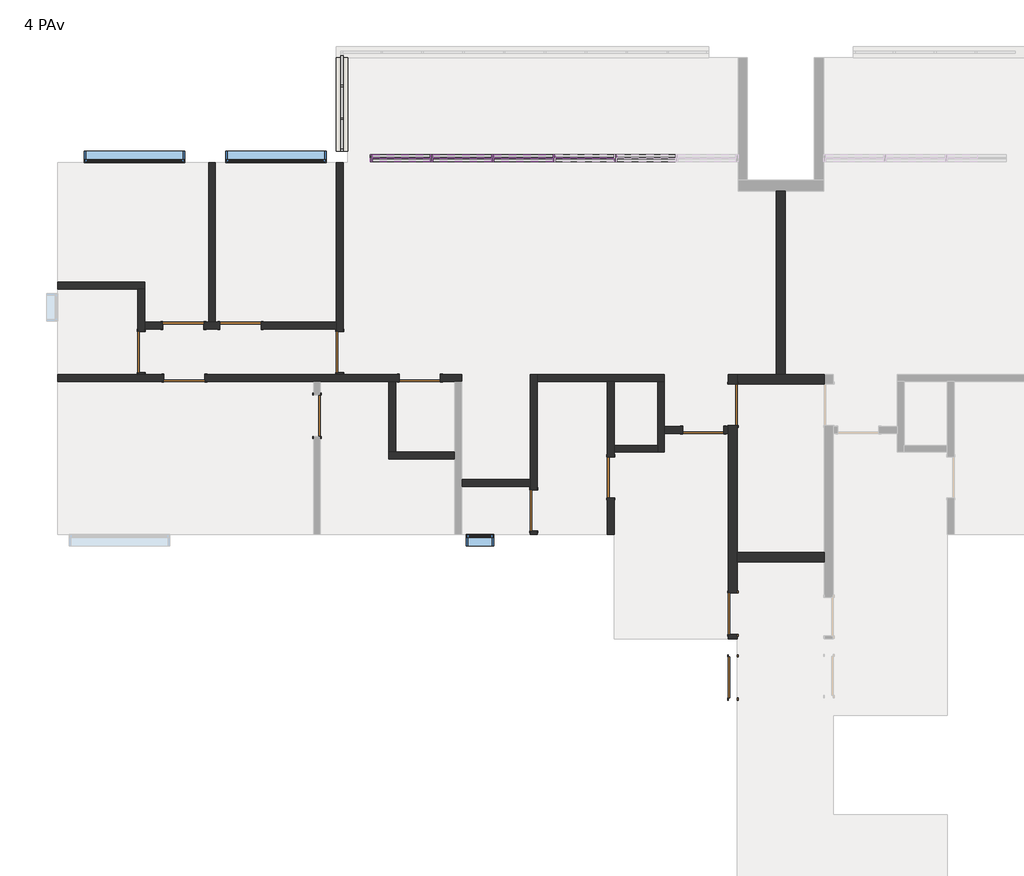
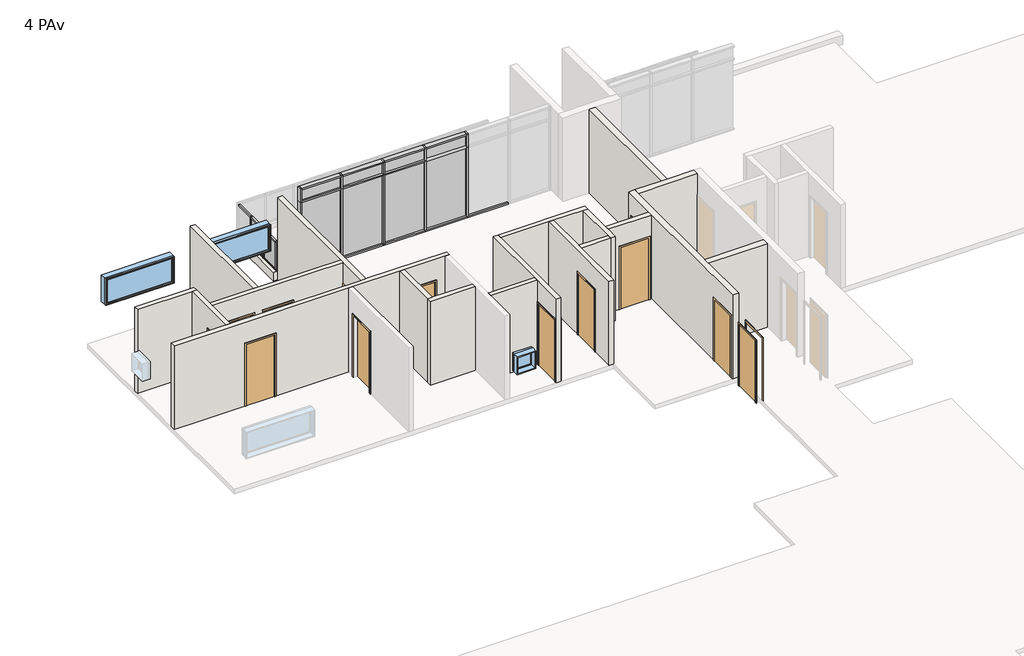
# One storey, part 4 of 6: 30 members, 20 walls, 13 doors, 10 plates, 3 windows.
"""IFC4 building model written with IfcOpenShell, lengths in millimetres."""

from ifc_helpers import new_model, si_unit, frame, origin, place, context, project, spatial, polyline, outline, extrude, faceted_brep, transform, mapped, element, save
from components import door_90_x_210_ee935524, door_90_x_210_565370b3, door_90_x_210_2c83007d, door_90_x_210_fbafd55c, montante_retangular_50_mm_quadrado_84e40a56, montante_retangular_50_mm_quadrado_3d152aff, montante_retangular_50_mm_quadrado_a01005a4, montante_retangular_50_mm_quadrado_ddd80bd7, montante_retangular_50_x_150_mm_6217edde, montante_retangular_50_x_150_mm_a22249d7, montante_retangular_50_x_150_mm_6225e4e3, montante_retangular_50_x_150_mm_0a8c3443, montante_retangular_50_x_150_mm_567eccab, montante_retangular_50_x_150_mm_1ca2bba2, montante_retangular_50_x_150_mm_6abf4531, montante_retangular_50_x_150_mm_662c37b1, painel_do_sistema_0196877a, painel_do_sistema_2aa81470, painel_do_sistema_1ecb5f42, painel_do_sistema_49db1829, painel_do_sistema_5ea5287b, painel_do_sistema_7730abee, window_0610_x_0610_mm_b5667cc9, window_220_x_90_84e01c73

model = new_model("IFC4")

# Units and contexts
model_context = context("Model", 3, world=origin())
ifc_project = project(units=[si_unit("LENGTHUNIT", "METRE", prefix="MILLI")], contexts=[model_context])

# Site, building, storey
site = spatial("IfcSite", under=ifc_project)
building = spatial("IfcBuilding", under=site)
storey = spatial("IfcBuildingStorey", under=building, Name="4 PAv", Elevation=12000.0)

# Doors
placement = place(None, origin())
door_90_x_210_shape = door_90_x_210_ee935524(model_context)
element("IfcDoor", 1, ObjectType="M_Descarga simples : 90 x 210", at=placement, inside=storey, context=model_context, shape_type="MappedRepresentation", body=[
    mapped(door_90_x_210_shape, transform((-14116.2265742, 10408.6614625, 12000.0), x_axis=(1.0, 0.0, 0.0), y_axis=(0.0, 1.0, 0.0), z_axis=(0.0, 0.0, 1.0))),
])
element("IfcDoor", 2, ObjectType="M_Descarga simples : 90 x 210", at=placement, inside=storey, context=model_context, shape_type="MappedRepresentation", body=[
    mapped(door_90_x_210_shape, transform((-14096.2265742, 9258.6614625, 12000.0), x_axis=(-1.0, 0.0, 0.0), y_axis=(0.0, -1.0, 0.0), z_axis=(0.0, 0.0, 1.0))),
])
element("IfcDoor", 3, ObjectType="M_Descarga simples : 90 x 210", at=placement, inside=storey, context=model_context, shape_type="MappedRepresentation", body=[
    mapped(door_90_x_210_shape, transform((-8936.2265742, 9258.6614625, 12000.0), x_axis=(-1.0, 0.0, 0.0), y_axis=(0.0, -1.0, 0.0), z_axis=(0.0, 0.0, 1.0))),
])
door_90_x_210_2_shape = door_90_x_210_565370b3(model_context)
element("IfcDoor", 4, ObjectType="M_Descarga simples : 90 x 210", at=placement, inside=storey, context=model_context, shape_type="MappedRepresentation", body=[
    mapped(door_90_x_210_2_shape, transform((-2726.2265742, 8118.6614625, 12000.0), x_axis=(1.0, 0.0, 0.0), y_axis=(0.0, 1.0, 0.0), z_axis=(0.0, 0.0, 1.0))),
])
element("IfcDoor", 5, ObjectType="M_Descarga simples : 90 x 210", at=placement, inside=storey, context=model_context, shape_type="MappedRepresentation", body=[
    mapped(door_90_x_210_2_shape, transform((-4751.2265742, 7083.6614625, 12000.0), x_axis=(0.0, -1.0, 0.0), y_axis=(1.0, 0.0, 0.0), z_axis=(0.0, 0.0, 1.0))),
])
element("IfcDoor", 6, ObjectType="M_Descarga simples : 90 x 210", at=placement, inside=storey, context=model_context, shape_type="MappedRepresentation", body=[
    mapped(door_90_x_210_2_shape, transform((-6441.2265742, 6358.6614625, 12000.0), x_axis=(0.0, -1.0, 0.0), y_axis=(1.0, 0.0, 0.0), z_axis=(0.0, 0.0, 1.0))),
])
element("IfcDoor", 7, ObjectType="M_Descarga simples : 90 x 210", at=placement, inside=storey, context=model_context, shape_type="MappedRepresentation", body=[
    mapped(door_90_x_210_2_shape, transform((-11191.2265742, 8433.6614625, 12000.0), x_axis=(0.0, 1.0, 0.0), y_axis=(-1.0, 0.0, 0.0), z_axis=(0.0, 0.0, 1.0))),
])
element("IfcDoor", 8, ObjectType="M_Descarga simples : 90 x 210", at=placement, inside=storey, context=model_context, shape_type="MappedRepresentation", body=[
    mapped(door_90_x_210_2_shape, transform((-10691.2265742, 9833.6614625, 12000.0), x_axis=(0.0, -1.0, 0.0), y_axis=(1.0, 0.0, 0.0), z_axis=(0.0, 0.0, 1.0))),
])
element("IfcDoor", 9, ObjectType="M_Descarga simples : 90 x 210", at=placement, inside=storey, context=model_context, shape_type="MappedRepresentation", body=[
    mapped(door_90_x_210_2_shape, transform((-15041.2265742, 9833.6614625, 12000.0), x_axis=(0.0, -1.0, 0.0), y_axis=(1.0, 0.0, 0.0), z_axis=(0.0, 0.0, 1.0))),
])
element("IfcDoor", 10, ObjectType="M_Descarga simples : 90 x 210", at=placement, inside=storey, context=model_context, shape_type="MappedRepresentation", body=[
    mapped(door_90_x_210_2_shape, transform((-12866.2265742, 10408.6614625, 12000.0), x_axis=(-1.0, 0.0, 0.0), y_axis=(0.0, -1.0, 0.0), z_axis=(0.0, 0.0, 1.0))),
])
door_90_x_210_3_shape = door_90_x_210_2c83007d(model_context)
element("IfcDoor", 11, ObjectType="M_Descarga simples : 90 x 210", at=placement, inside=storey, context=model_context, shape_type="MappedRepresentation", body=[
    mapped(door_90_x_210_3_shape, transform((-2076.2265742, 2693.6614625, 12000.0), x_axis=(0.0, 1.0, 0.0), y_axis=(-1.0, 0.0, 0.0), z_axis=(0.0, 0.0, 1.0))),
])
door_90_x_210_4_shape = door_90_x_210_fbafd55c(model_context)
element("IfcDoor", 12, ObjectType="M_Descarga simples : 90 x 210", at=placement, inside=storey, context=model_context, shape_type="MappedRepresentation", body=[
    mapped(door_90_x_210_4_shape, transform((-2076.2265742, 4093.6614625, 12000.0), x_axis=(0.0, -1.0, 0.0), y_axis=(1.0, 0.0, 0.0), z_axis=(0.0, 0.0, 1.0))),
])
element("IfcDoor", 13, ObjectType="M_Descarga simples : 90 x 210", at=placement, inside=storey, context=model_context, shape_type="MappedRepresentation", body=[
    mapped(door_90_x_210_4_shape, transform((-2076.2265742, 8673.2521762, 12000.0), x_axis=(0.0, 1.0, 0.0), y_axis=(-1.0, 0.0, 0.0), z_axis=(0.0, 0.0, 1.0))),
])

# Members
montante_retangular_50_mm_quadrado_shape = montante_retangular_50_mm_quadrado_84e40a56(model_context)
element("IfcMember", 14, ObjectType="Montante retangular : 50 mm Quadrado", at=placement, inside=storey, context=model_context, shape_type="MappedRepresentation", body=[
    mapped(montante_retangular_50_mm_quadrado_shape, transform((-10641.2265742, 15663.6614625, 12150.0), x_axis=(0.0, -1.0, 0.0), y_axis=(-1.0, 0.0, 0.0), z_axis=(0.0, 0.0, -1.0))),
])
element("IfcMember", 15, ObjectType="Montante retangular : 50 mm Quadrado", at=placement, inside=storey, context=model_context, shape_type="MappedRepresentation", body=[
    mapped(montante_retangular_50_mm_quadrado_shape, transform((-10641.2265742, 14948.6614625, 12150.0), x_axis=(0.0, -1.0, 0.0), y_axis=(-1.0, 0.0, 0.0), z_axis=(0.0, 0.0, -1.0))),
])
montante_retangular_50_mm_quadrado_2_shape = montante_retangular_50_mm_quadrado_3d152aff(model_context)
element("IfcMember", 16, ObjectType="Montante retangular : 50 mm Quadrado", at=placement, inside=storey, context=model_context, shape_type="MappedRepresentation", body=[
    mapped(montante_retangular_50_mm_quadrado_2_shape, transform((-10641.2265742, 14233.6614625, 12150.0), x_axis=(0.0, -1.0, 0.0), y_axis=(-1.0, 0.0, 0.0), z_axis=(0.0, 0.0, -1.0))),
])
montante_retangular_50_mm_quadrado_3_shape = montante_retangular_50_mm_quadrado_a01005a4(model_context)
element("IfcMember", 17, ObjectType="Montante retangular : 50 mm Quadrado", at=placement, inside=storey, context=model_context, shape_type="MappedRepresentation", body=[
    mapped(montante_retangular_50_mm_quadrado_3_shape, transform((-10641.2265742, 14283.6614625, 13150.0), x_axis=(0.0, 0.0, 1.0), y_axis=(-1.0, 0.0, 0.0), z_axis=(0.0, -1.0, 0.0))),
])
element("IfcMember", 18, ObjectType="Montante retangular : 50 mm Quadrado", at=placement, inside=storey, context=model_context, shape_type="MappedRepresentation", body=[
    mapped(montante_retangular_50_mm_quadrado_3_shape, transform((-10641.2265742, 15688.6614625, 13150.0), x_axis=(0.0, 0.0, 1.0), y_axis=(-1.0, 0.0, 0.0), z_axis=(0.0, -1.0, 0.0))),
])
montante_retangular_50_mm_quadrado_4_shape = montante_retangular_50_mm_quadrado_ddd80bd7(model_context)
element("IfcMember", 19, ObjectType="Montante retangular : 50 mm Quadrado", at=placement, inside=storey, context=model_context, shape_type="MappedRepresentation", body=[
    mapped(montante_retangular_50_mm_quadrado_4_shape, transform((-10641.2265742, 14973.6614625, 13150.0), x_axis=(0.0, 0.0, 1.0), y_axis=(-1.0, 0.0, 0.0), z_axis=(0.0, -1.0, 0.0))),
])
element("IfcMember", 20, ObjectType="Montante retangular : 50 mm Quadrado", at=placement, inside=storey, context=model_context, shape_type="MappedRepresentation", body=[
    mapped(montante_retangular_50_mm_quadrado_3_shape, transform((-10641.2265742, 14923.6614625, 12150.0), x_axis=(0.0, 0.0, -1.0), y_axis=(-1.0, 0.0, 0.0), z_axis=(0.0, 1.0, 0.0))),
])
element("IfcMember", 21, ObjectType="Montante retangular : 50 mm Quadrado", at=placement, inside=storey, context=model_context, shape_type="MappedRepresentation", body=[
    mapped(montante_retangular_50_mm_quadrado_4_shape, transform((-10641.2265742, 15638.6614625, 12150.0), x_axis=(0.0, 0.0, -1.0), y_axis=(-1.0, 0.0, 0.0), z_axis=(0.0, 1.0, 0.0))),
])
montante_retangular_50_x_150_mm_shape = montante_retangular_50_x_150_mm_6217edde(model_context)
element("IfcMember", 22, ObjectType="Montante retangular : 50 x 150 mm", at=placement, inside=storey, context=model_context, shape_type="MappedRepresentation", body=[
    mapped(montante_retangular_50_x_150_mm_shape, transform((-8707.0599075, 14083.6614625, 14850.0), x_axis=(0.0, 0.0, 1.0), y_axis=(0.0, -1.0, 0.0), z_axis=(1.0, 0.0, 0.0))),
])
montante_retangular_50_x_150_mm_2_shape = montante_retangular_50_x_150_mm_a22249d7(model_context)
element("IfcMember", 23, ObjectType="Montante retangular : 50 x 150 mm", at=placement, inside=storey, context=model_context, shape_type="MappedRepresentation", body=[
    mapped(montante_retangular_50_x_150_mm_2_shape, transform((-7362.8932408, 14083.6614625, 14850.0), x_axis=(0.0, 0.0, 1.0), y_axis=(0.0, -1.0, 0.0), z_axis=(1.0, 0.0, 0.0))),
])
element("IfcMember", 24, ObjectType="Montante retangular : 50 x 150 mm", at=placement, inside=storey, context=model_context, shape_type="MappedRepresentation", body=[
    mapped(montante_retangular_50_x_150_mm_2_shape, transform((-6018.7265742, 14083.6614625, 14850.0), x_axis=(0.0, 0.0, 1.0), y_axis=(0.0, -1.0, 0.0), z_axis=(1.0, 0.0, 0.0))),
])
element("IfcMember", 25, ObjectType="Montante retangular : 50 x 150 mm", at=placement, inside=storey, context=model_context, shape_type="MappedRepresentation", body=[
    mapped(montante_retangular_50_x_150_mm_2_shape, transform((-4674.5599075, 14083.6614625, 14850.0), x_axis=(0.0, 0.0, 1.0), y_axis=(0.0, -1.0, 0.0), z_axis=(1.0, 0.0, 0.0))),
])
element("IfcMember", 26, ObjectType="Montante retangular : 50 x 150 mm", at=placement, inside=storey, context=model_context, shape_type="MappedRepresentation", body=[
    mapped(montante_retangular_50_x_150_mm_shape, transform((-9976.2265742, 14083.6614625, 12000.0), x_axis=(0.0, 0.0, -1.0), y_axis=(0.0, -1.0, 0.0), z_axis=(-1.0, 0.0, 0.0))),
])
element("IfcMember", 27, ObjectType="Montante retangular : 50 x 150 mm", at=placement, inside=storey, context=model_context, shape_type="MappedRepresentation", body=[
    mapped(montante_retangular_50_x_150_mm_2_shape, transform((-8657.0599075, 14083.6614625, 12000.0), x_axis=(0.0, 0.0, -1.0), y_axis=(0.0, -1.0, 0.0), z_axis=(-1.0, 0.0, 0.0))),
])
element("IfcMember", 28, ObjectType="Montante retangular : 50 x 150 mm", at=placement, inside=storey, context=model_context, shape_type="MappedRepresentation", body=[
    mapped(montante_retangular_50_x_150_mm_2_shape, transform((-7312.8932408, 14083.6614625, 12000.0), x_axis=(0.0, 0.0, -1.0), y_axis=(0.0, -1.0, 0.0), z_axis=(-1.0, 0.0, 0.0))),
])
element("IfcMember", 29, ObjectType="Montante retangular : 50 x 150 mm", at=placement, inside=storey, context=model_context, shape_type="MappedRepresentation", body=[
    mapped(montante_retangular_50_x_150_mm_2_shape, transform((-5968.7265742, 14083.6614625, 12000.0), x_axis=(0.0, 0.0, -1.0), y_axis=(0.0, -1.0, 0.0), z_axis=(-1.0, 0.0, 0.0))),
])
element("IfcMember", 30, ObjectType="Montante retangular : 50 x 150 mm", at=placement, inside=storey, context=model_context, shape_type="MappedRepresentation", body=[
    mapped(montante_retangular_50_x_150_mm_2_shape, transform((-4624.5599075, 14083.6614625, 12000.0), x_axis=(0.0, 0.0, -1.0), y_axis=(0.0, -1.0, 0.0), z_axis=(-1.0, 0.0, 0.0))),
])
montante_retangular_50_x_150_mm_3_shape = montante_retangular_50_x_150_mm_6225e4e3(model_context)
element("IfcMember", 31, ObjectType="Montante retangular : 50 x 150 mm", at=placement, inside=storey, context=model_context, shape_type="MappedRepresentation", body=[
    mapped(montante_retangular_50_x_150_mm_3_shape, transform((-8682.0599075, 14083.6614625, 12000.0), x_axis=(1.0, 0.0, 0.0), y_axis=(0.0, -1.0, 0.0), z_axis=(0.0, 0.0, -1.0))),
])
element("IfcMember", 32, ObjectType="Montante retangular : 50 x 150 mm", at=placement, inside=storey, context=model_context, shape_type="MappedRepresentation", body=[
    mapped(montante_retangular_50_x_150_mm_3_shape, transform((-7337.8932408, 14083.6614625, 12000.0), x_axis=(1.0, 0.0, 0.0), y_axis=(0.0, -1.0, 0.0), z_axis=(0.0, 0.0, -1.0))),
])
element("IfcMember", 33, ObjectType="Montante retangular : 50 x 150 mm", at=placement, inside=storey, context=model_context, shape_type="MappedRepresentation", body=[
    mapped(montante_retangular_50_x_150_mm_3_shape, transform((-5993.7265742, 14083.6614625, 12000.0), x_axis=(1.0, 0.0, 0.0), y_axis=(0.0, -1.0, 0.0), z_axis=(0.0, 0.0, -1.0))),
])
element("IfcMember", 34, ObjectType="Montante retangular : 50 x 150 mm", at=placement, inside=storey, context=model_context, shape_type="MappedRepresentation", body=[
    mapped(montante_retangular_50_x_150_mm_3_shape, transform((-4649.5599075, 14083.6614625, 12000.0), x_axis=(1.0, 0.0, 0.0), y_axis=(0.0, -1.0, 0.0), z_axis=(0.0, 0.0, -1.0))),
])
montante_retangular_50_x_150_mm_4_shape = montante_retangular_50_x_150_mm_0a8c3443(model_context)
element("IfcMember", 35, ObjectType="Montante retangular : 50 x 150 mm", at=placement, inside=storey, context=model_context, shape_type="MappedRepresentation", body=[
    mapped(montante_retangular_50_x_150_mm_4_shape, transform((-10026.2265742, 14083.6614625, 14850.0), x_axis=(-1.0, 0.0, 0.0), y_axis=(0.0, -1.0, 0.0), z_axis=(0.0, 0.0, 1.0))),
])
montante_retangular_50_x_150_mm_5_shape = montante_retangular_50_x_150_mm_567eccab(model_context)
element("IfcMember", 36, ObjectType="Montante retangular : 50 x 150 mm", at=placement, inside=storey, context=model_context, shape_type="MappedRepresentation", body=[
    mapped(montante_retangular_50_x_150_mm_5_shape, transform((-8682.0599075, 14083.6614625, 14400.0), x_axis=(1.0, 0.0, 0.0), y_axis=(0.0, -1.0, 0.0), z_axis=(0.0, 0.0, -1.0))),
])
element("IfcMember", 37, ObjectType="Montante retangular : 50 x 150 mm", at=placement, inside=storey, context=model_context, shape_type="MappedRepresentation", body=[
    mapped(montante_retangular_50_x_150_mm_5_shape, transform((-7337.8932408, 14083.6614625, 14400.0), x_axis=(1.0, 0.0, 0.0), y_axis=(0.0, -1.0, 0.0), z_axis=(0.0, 0.0, -1.0))),
])
element("IfcMember", 38, ObjectType="Montante retangular : 50 x 150 mm", at=placement, inside=storey, context=model_context, shape_type="MappedRepresentation", body=[
    mapped(montante_retangular_50_x_150_mm_5_shape, transform((-5993.7265742, 14083.6614625, 14400.0), x_axis=(1.0, 0.0, 0.0), y_axis=(0.0, -1.0, 0.0), z_axis=(0.0, 0.0, -1.0))),
])
element("IfcMember", 39, ObjectType="Montante retangular : 50 x 150 mm", at=placement, inside=storey, context=model_context, shape_type="MappedRepresentation", body=[
    mapped(montante_retangular_50_x_150_mm_5_shape, transform((-4649.5599075, 14083.6614625, 14400.0), x_axis=(1.0, 0.0, 0.0), y_axis=(0.0, -1.0, 0.0), z_axis=(0.0, 0.0, -1.0))),
])
montante_retangular_50_x_150_mm_6_shape = montante_retangular_50_x_150_mm_1ca2bba2(model_context)
element("IfcMember", 40, ObjectType="Montante retangular : 50 x 150 mm", at=placement, inside=storey, context=model_context, shape_type="MappedRepresentation", body=[
    mapped(montante_retangular_50_x_150_mm_6_shape, transform((-8707.0599075, 14083.6614625, 14400.0), x_axis=(0.0, 0.0, 1.0), y_axis=(0.0, -1.0, 0.0), z_axis=(1.0, 0.0, 0.0))),
])
montante_retangular_50_x_150_mm_7_shape = montante_retangular_50_x_150_mm_6abf4531(model_context)
element("IfcMember", 41, ObjectType="Montante retangular : 50 x 150 mm", at=placement, inside=storey, context=model_context, shape_type="MappedRepresentation", body=[
    mapped(montante_retangular_50_x_150_mm_7_shape, transform((-7362.8932408, 14083.6614625, 14400.0), x_axis=(0.0, 0.0, 1.0), y_axis=(0.0, -1.0, 0.0), z_axis=(1.0, 0.0, 0.0))),
])
element("IfcMember", 42, ObjectType="Montante retangular : 50 x 150 mm", at=placement, inside=storey, context=model_context, shape_type="MappedRepresentation", body=[
    mapped(montante_retangular_50_x_150_mm_7_shape, transform((-6018.7265742, 14083.6614625, 14400.0), x_axis=(0.0, 0.0, 1.0), y_axis=(0.0, -1.0, 0.0), z_axis=(1.0, 0.0, 0.0))),
])
montante_retangular_50_x_150_mm_8_shape = montante_retangular_50_x_150_mm_662c37b1(model_context)
element("IfcMember", 43, ObjectType="Montante retangular : 50 x 150 mm", at=placement, inside=storey, context=model_context, shape_type="MappedRepresentation", body=[
    mapped(montante_retangular_50_x_150_mm_8_shape, transform((-10026.2265742, 14083.6614625, 14400.0), x_axis=(-1.0, 0.0, 0.0), y_axis=(0.0, -1.0, 0.0), z_axis=(0.0, 0.0, 1.0))),
])

# Plates
painel_do_sistema_shape = painel_do_sistema_0196877a(model_context)
element("IfcPlate", 44, ObjectType="Painel do sistema : Envidraçado", at=placement, inside=storey, context=model_context, shape_type="MappedRepresentation", body=[
    mapped(painel_do_sistema_shape, transform((-10641.2265742, 14603.6614625, 12200.0), x_axis=(0.0, -1.0, 0.0), y_axis=(1.0, 0.0, 0.0), z_axis=(0.0, 0.0, 1.0))),
])
painel_do_sistema_2_shape = painel_do_sistema_2aa81470(model_context)
element("IfcPlate", 45, ObjectType="Painel do sistema : Envidraçado", at=placement, inside=storey, context=model_context, shape_type="MappedRepresentation", body=[
    mapped(painel_do_sistema_2_shape, transform((-10641.2265742, 15306.1614625, 12200.0), x_axis=(0.0, -1.0, 0.0), y_axis=(1.0, 0.0, 0.0), z_axis=(0.0, 0.0, 1.0))),
])
painel_do_sistema_3_shape = painel_do_sistema_1ecb5f42(model_context)
element("IfcPlate", 46, ObjectType="Painel do sistema : Envidraçado", at=placement, inside=storey, context=model_context, shape_type="MappedRepresentation", body=[
    mapped(painel_do_sistema_3_shape, transform((-9341.6432408, 14083.6614625, 12050.0), x_axis=(1.0, 0.0, 0.0), y_axis=(0.0, 1.0, 0.0), z_axis=(0.0, 0.0, 1.0))),
])
painel_do_sistema_4_shape = painel_do_sistema_49db1829(model_context)
element("IfcPlate", 47, ObjectType="Painel do sistema : Envidraçado", at=placement, inside=storey, context=model_context, shape_type="MappedRepresentation", body=[
    mapped(painel_do_sistema_4_shape, transform((-8009.9765742, 14083.6614625, 12050.0), x_axis=(1.0, 0.0, 0.0), y_axis=(0.0, 1.0, 0.0), z_axis=(0.0, 0.0, 1.0))),
])
element("IfcPlate", 48, ObjectType="Painel do sistema : Envidraçado", at=placement, inside=storey, context=model_context, shape_type="MappedRepresentation", body=[
    mapped(painel_do_sistema_4_shape, transform((-6665.8099075, 14083.6614625, 12050.0), x_axis=(1.0, 0.0, 0.0), y_axis=(0.0, 1.0, 0.0), z_axis=(0.0, 0.0, 1.0))),
])
element("IfcPlate", 49, ObjectType="Painel do sistema : Envidraçado", at=placement, inside=storey, context=model_context, shape_type="MappedRepresentation", body=[
    mapped(painel_do_sistema_4_shape, transform((-5321.6432408, 14083.6614625, 12050.0), x_axis=(1.0, 0.0, 0.0), y_axis=(0.0, 1.0, 0.0), z_axis=(0.0, 0.0, 1.0))),
])
painel_do_sistema_5_shape = painel_do_sistema_5ea5287b(model_context)
element("IfcPlate", 50, ObjectType="Painel do sistema : Envidraçado", at=placement, inside=storey, context=model_context, shape_type="MappedRepresentation", body=[
    mapped(painel_do_sistema_5_shape, transform((-9341.6432408, 14083.6614625, 14425.0), x_axis=(1.0, 0.0, 0.0), y_axis=(0.0, 1.0, 0.0), z_axis=(0.0, 0.0, 1.0))),
])
painel_do_sistema_6_shape = painel_do_sistema_7730abee(model_context)
element("IfcPlate", 51, ObjectType="Painel do sistema : Envidraçado", at=placement, inside=storey, context=model_context, shape_type="MappedRepresentation", body=[
    mapped(painel_do_sistema_6_shape, transform((-8009.9765742, 14083.6614625, 14425.0), x_axis=(1.0, 0.0, 0.0), y_axis=(0.0, 1.0, 0.0), z_axis=(0.0, 0.0, 1.0))),
])
element("IfcPlate", 52, ObjectType="Painel do sistema : Envidraçado", at=placement, inside=storey, context=model_context, shape_type="MappedRepresentation", body=[
    mapped(painel_do_sistema_6_shape, transform((-6665.8099075, 14083.6614625, 14425.0), x_axis=(1.0, 0.0, 0.0), y_axis=(0.0, 1.0, 0.0), z_axis=(0.0, 0.0, 1.0))),
])
element("IfcPlate", 53, ObjectType="Painel do sistema : Envidraçado", at=placement, inside=storey, context=model_context, shape_type="MappedRepresentation", body=[
    mapped(painel_do_sistema_6_shape, transform((-5321.6432408, 14083.6614625, 14425.0), x_axis=(1.0, 0.0, 0.0), y_axis=(0.0, 1.0, 0.0), z_axis=(0.0, 0.0, 1.0))),
])

# Walls
element("IfcWall", 54, ObjectType="Exeterna 25", at=placement, inside=storey, context=model_context, shape_type="SweptSolid", body=[
    extrude(outline(polyline([(-10766.2265742, 14233.6614625), (-10766.2265742, 16278.6614625), (-10516.2265742, 16278.6614625), (-10516.2265742, 14233.6614625), (-10766.2265742, 14233.6614625)])), frame((0.0, 0.0, 11850.0), z_axis=(0.0, 0.0, 1.0), x_axis=(1.0, 0.0, 0.0)), (0.0, 0.0, 1.0), 300.0),
])
element("IfcWall", 55, ObjectType="Estrutura 20", at=placement, inside=storey, context=model_context, shape_type="SweptSolid", body=[
    extrude(outline(polyline([(-76.2265742, 5233.6614625), (-1976.2265742, 5233.6614625), (-1976.2265742, 5433.6614625), (-76.2265742, 5433.6614625), (-76.2265742, 5233.6614625)])), frame((0.0, 0.0, 12000.0), z_axis=(0.0, 0.0, 1.0), x_axis=(1.0, 0.0, 0.0)), (0.0, 0.0, 1.0), 2850.0),
])
element("IfcWall", 56, ObjectType="Interna 15", at=placement, inside=storey, context=model_context, shape_type="Brep", body=[
    faceted_brep([(-10766.2265742, 9383.6614625, 14100.0), (-10766.2265742, 9383.6614625, 12000.0), (-10766.2265742, 9333.6614625, 12000.0), (-10766.2265742, 9333.6614625, 14850.0), (-10766.2265742, 10333.6614625, 14850.0), (-10766.2265742, 10483.6614625, 14850.0), (-10766.2265742, 13983.6614625, 14850.0), (-10766.2265742, 13983.6614625, 12000.0), (-10766.2265742, 10483.6614625, 12000.0), (-10766.2265742, 10333.6614625, 12000.0), (-10766.2265742, 10283.6614625, 12000.0), (-10766.2265742, 10283.6614625, 14100.0), (-10616.2265742, 9333.6614625, 12000.0), (-10616.2265742, 9383.6614625, 12000.0), (-10616.2265742, 9383.6614625, 14100.0), (-10616.2265742, 10283.6614625, 14100.0), (-10616.2265742, 10283.6614625, 12000.0), (-10616.2265742, 13983.6614625, 12000.0), (-10616.2265742, 13983.6614625, 14850.0), (-10616.2265742, 9333.6614625, 14850.0)], [[[0, 1, 2, 3, 4, 5, 6, 7, 8, 9, 10, 11]], [[12, 13, 14, 15, 16, 17, 18, 19]], [[2, 1, 13, 12]], [[10, 9, 8, 7, 17, 16]], [[6, 5, 4, 3, 19, 18]], [[3, 2, 12, 19]], [[14, 13, 1, 0]], [[15, 14, 0, 11]], [[16, 15, 11, 10]], [[7, 6, 18, 17]]]),
])
element("IfcWall", 57, ObjectType="Interna 15", at=placement, inside=storey, context=model_context, shape_type="Brep", body=[
    faceted_brep([(-13316.2265742, 10483.6614625, 12000.0), (-13416.2265742, 10483.6614625, 12000.0), (-13566.2265742, 10483.6614625, 12000.0), (-13666.2265742, 10483.6614625, 12000.0), (-13666.2265742, 10483.6614625, 14100.0), (-14566.2265742, 10483.6614625, 14100.0), (-14566.2265742, 10483.6614625, 12000.0), (-14966.2265742, 10483.6614625, 12000.0), (-14966.2265742, 10483.6614625, 14850.0), (-13566.2265742, 10483.6614625, 14850.0), (-13416.2265742, 10483.6614625, 14850.0), (-10766.2265742, 10483.6614625, 14850.0), (-10766.2265742, 10483.6614625, 12000.0), (-12416.2265742, 10483.6614625, 12000.0), (-12416.2265742, 10483.6614625, 14100.0), (-13316.2265742, 10483.6614625, 14100.0), (-13666.2265742, 10333.6614625, 14100.0), (-13666.2265742, 10333.6614625, 12000.0), (-13316.2265742, 10333.6614625, 12000.0), (-13316.2265742, 10333.6614625, 14100.0), (-12416.2265742, 10333.6614625, 14100.0), (-12416.2265742, 10333.6614625, 12000.0), (-10766.2265742, 10333.6614625, 12000.0), (-10766.2265742, 10333.6614625, 14850.0), (-14966.2265742, 10333.6614625, 14850.0), (-14966.2265742, 10333.6614625, 12000.0), (-14566.2265742, 10333.6614625, 12000.0), (-14566.2265742, 10333.6614625, 14100.0)], [[[0, 1, 2, 3, 4, 5, 6, 7, 8, 9, 10, 11, 12, 13, 14, 15]], [[16, 17, 18, 19, 20, 21, 22, 23, 24, 25, 26, 27]], [[13, 12, 22, 21]], [[26, 25, 7, 6]], [[18, 17, 3, 2, 1, 0]], [[11, 10, 9, 8, 24, 23]], [[12, 11, 23, 22]], [[8, 7, 25, 24]], [[4, 3, 17, 16]], [[5, 4, 16, 27]], [[6, 5, 27, 26]], [[19, 18, 0, 15]], [[20, 19, 15, 14]], [[21, 20, 14, 13]]]),
])
element("IfcWall", 58, ObjectType="Interna 15", at=placement, inside=storey, context=model_context, shape_type="SweptSolid", body=[
    extrude(outline(polyline([(-13416.2265742, 13983.6614625), (-13416.2265742, 10483.6614625), (-13566.2265742, 10483.6614625), (-13566.2265742, 13983.6614625), (-13416.2265742, 13983.6614625)])), frame((0.0, 0.0, 12000.0), z_axis=(0.0, 0.0, 1.0), x_axis=(1.0, 0.0, 0.0)), (0.0, 0.0, 1.0), 2850.0),
])
element("IfcWall", 59, ObjectType="Interna 15", at=placement, inside=storey, context=model_context, shape_type="Brep", body=[
    faceted_brep([(-16866.2265742, 11213.6614625, 12000.0), (-15116.2265742, 11213.6614625, 12000.0), (-14966.2265742, 11213.6614625, 12000.0), (-14966.2265742, 11213.6614625, 14850.0), (-15116.2265742, 11213.6614625, 14850.0), (-16866.2265742, 11213.6614625, 14850.0), (-16866.2265742, 11363.6614625, 12000.0), (-16866.2265742, 11363.6614625, 14850.0), (-14966.2265742, 11363.6614625, 14850.0), (-14966.2265742, 11363.6614625, 12000.0)], [[[0, 1, 2, 3, 4, 5]], [[6, 7, 8, 9]], [[2, 1, 0, 6, 9]], [[5, 4, 3, 8, 7]], [[3, 2, 9, 8]], [[0, 5, 7, 6]]]),
])
element("IfcWall", 60, ObjectType="Interna 15", at=placement, inside=storey, context=model_context, shape_type="Brep", body=[
    faceted_brep([(-15116.2265742, 9383.6614625, 14100.0), (-15116.2265742, 9383.6614625, 12000.0), (-15116.2265742, 9333.6614625, 12000.0), (-15116.2265742, 9333.6614625, 14850.0), (-15116.2265742, 11213.6614625, 14850.0), (-15116.2265742, 11213.6614625, 12000.0), (-15116.2265742, 10283.6614625, 12000.0), (-15116.2265742, 10283.6614625, 14100.0), (-14966.2265742, 9333.6614625, 12000.0), (-14966.2265742, 9383.6614625, 12000.0), (-14966.2265742, 9383.6614625, 14100.0), (-14966.2265742, 10283.6614625, 14100.0), (-14966.2265742, 10283.6614625, 12000.0), (-14966.2265742, 10333.6614625, 12000.0), (-14966.2265742, 10483.6614625, 12000.0), (-14966.2265742, 11213.6614625, 12000.0), (-14966.2265742, 11213.6614625, 14850.0), (-14966.2265742, 10483.6614625, 14850.0), (-14966.2265742, 10333.6614625, 14850.0), (-14966.2265742, 9333.6614625, 14850.0)], [[[0, 1, 2, 3, 4, 5, 6, 7]], [[8, 9, 10, 11, 12, 13, 14, 15, 16, 17, 18, 19]], [[6, 5, 15, 14, 13, 12]], [[2, 1, 9, 8]], [[4, 3, 19, 18, 17, 16]], [[3, 2, 8, 19]], [[5, 4, 16, 15]], [[10, 9, 1, 0]], [[11, 10, 0, 7]], [[12, 11, 7, 6]]]),
])
element("IfcWall", 61, ObjectType="Interna 15", at=placement, inside=storey, context=model_context, shape_type="Brep", body=[
    faceted_brep([(-13646.2265742, 9183.6614625, 12000.0), (-11266.2265742, 9183.6614625, 12000.0), (-11116.2265742, 9183.6614625, 12000.0), (-9616.2265742, 9183.6614625, 12000.0), (-9466.2265742, 9183.6614625, 12000.0), (-9386.2265742, 9183.6614625, 12000.0), (-9386.2265742, 9183.6614625, 14100.0), (-8486.2265742, 9183.6614625, 14100.0), (-8486.2265742, 9183.6614625, 12000.0), (-8166.2265742, 9183.6614625, 12000.0), (-8016.2265742, 9183.6614625, 12000.0), (-8016.2265742, 9183.6614625, 14850.0), (-8166.2265742, 9183.6614625, 14850.0), (-9466.2265742, 9183.6614625, 14850.0), (-9616.2265742, 9183.6614625, 14850.0), (-11116.2265742, 9183.6614625, 14850.0), (-11266.2265742, 9183.6614625, 14850.0), (-16866.2265742, 9183.6614625, 14850.0), (-16866.2265742, 9183.6614625, 12000.0), (-14546.2265742, 9183.6614625, 12000.0), (-14546.2265742, 9183.6614625, 14100.0), (-13646.2265742, 9183.6614625, 14100.0), (-9386.2265742, 9333.6614625, 14100.0), (-9386.2265742, 9333.6614625, 12000.0), (-10616.2265742, 9333.6614625, 12000.0), (-10766.2265742, 9333.6614625, 12000.0), (-13646.2265742, 9333.6614625, 12000.0), (-13646.2265742, 9333.6614625, 14100.0), (-14546.2265742, 9333.6614625, 14100.0), (-14546.2265742, 9333.6614625, 12000.0), (-14966.2265742, 9333.6614625, 12000.0), (-15116.2265742, 9333.6614625, 12000.0), (-16866.2265742, 9333.6614625, 12000.0), (-16866.2265742, 9333.6614625, 14850.0), (-15116.2265742, 9333.6614625, 14850.0), (-14966.2265742, 9333.6614625, 14850.0), (-10766.2265742, 9333.6614625, 14850.0), (-10616.2265742, 9333.6614625, 14850.0), (-8016.2265742, 9333.6614625, 14850.0), (-8016.2265742, 9333.6614625, 12000.0), (-8486.2265742, 9333.6614625, 12000.0), (-8486.2265742, 9333.6614625, 14100.0)], [[[0, 1, 2, 3, 4, 5, 6, 7, 8, 9, 10, 11, 12, 13, 14, 15, 16, 17, 18, 19, 20, 21]], [[22, 23, 24, 25, 26, 27, 28, 29, 30, 31, 32, 33, 34, 35, 36, 37, 38, 39, 40, 41]], [[40, 39, 10, 9, 8]], [[26, 25, 24, 23, 5, 4, 3, 2, 1, 0]], [[32, 31, 30, 29, 19, 18]], [[17, 16, 15, 14, 13, 12, 11, 38, 37, 36, 35, 34, 33]], [[11, 10, 39, 38]], [[6, 5, 23, 22]], [[7, 6, 22, 41]], [[8, 7, 41, 40]], [[20, 19, 29, 28]], [[21, 20, 28, 27]], [[0, 21, 27, 26]], [[18, 17, 33, 32]]]),
])
element("IfcWall", 62, ObjectType="Interna 15", at=placement, inside=storey, context=model_context, shape_type="Brep", body=[
    faceted_brep([(-8166.2265742, 7633.6614625, 12000.0), (-9466.2265742, 7633.6614625, 12000.0), (-9616.2265742, 7633.6614625, 12000.0), (-9616.2265742, 7633.6614625, 14850.0), (-9466.2265742, 7633.6614625, 14850.0), (-8166.2265742, 7633.6614625, 14850.0), (-8166.2265742, 7483.6614625, 12000.0), (-8166.2265742, 7483.6614625, 14850.0), (-9616.2265742, 7483.6614625, 14850.0), (-9616.2265742, 7483.6614625, 12000.0)], [[[0, 1, 2, 3, 4, 5]], [[6, 7, 8, 9]], [[2, 1, 0, 6, 9]], [[5, 4, 3, 8, 7]], [[0, 5, 7, 6]], [[3, 2, 9, 8]]]),
])
element("IfcWall", 63, ObjectType="Interna 15", at=placement, inside=storey, context=model_context, shape_type="SweptSolid", body=[
    extrude(outline(polyline([(-9466.2265742, 9183.6614625), (-9466.2265742, 7633.6614625), (-9616.2265742, 7633.6614625), (-9616.2265742, 9183.6614625), (-9466.2265742, 9183.6614625)])), frame((0.0, 0.0, 12000.0), z_axis=(0.0, 0.0, 1.0), x_axis=(1.0, 0.0, 0.0)), (0.0, 0.0, 1.0), 2850.0),
])
element("IfcWall", 64, ObjectType="Interna 15", at=placement, inside=storey, context=model_context, shape_type="SweptSolid", body=[
    extrude(outline(polyline([(-6516.2265742, 6883.6614625), (-8016.2265742, 6883.6614625), (-8016.2265742, 7033.6614625), (-6516.2265742, 7033.6614625), (-6516.2265742, 6883.6614625)])), frame((0.0, 0.0, 12000.0), z_axis=(0.0, 0.0, 1.0), x_axis=(1.0, 0.0, 0.0)), (0.0, 0.0, 1.0), 2850.0),
])
element("IfcWall", 65, ObjectType="Interna 15", at=placement, inside=storey, context=model_context, shape_type="Brep", body=[
    faceted_brep([(-6366.2265742, 5833.6614625, 12000.0), (-6366.2265742, 5908.6614625, 12000.0), (-6366.2265742, 5908.6614625, 14100.0), (-6366.2265742, 6808.6614625, 14100.0), (-6366.2265742, 6808.6614625, 12000.0), (-6366.2265742, 9183.6614625, 12000.0), (-6366.2265742, 9333.6614625, 12000.0), (-6366.2265742, 9333.6614625, 14850.0), (-6366.2265742, 9183.6614625, 14850.0), (-6366.2265742, 5833.6614625, 14850.0), (-6516.2265742, 5908.6614625, 14100.0), (-6516.2265742, 5908.6614625, 12000.0), (-6516.2265742, 5833.6614625, 12000.0), (-6516.2265742, 5833.6614625, 14850.0), (-6516.2265742, 6883.6614625, 14850.0), (-6516.2265742, 7033.6614625, 14850.0), (-6516.2265742, 9333.6614625, 14850.0), (-6516.2265742, 9333.6614625, 12000.0), (-6516.2265742, 7033.6614625, 12000.0), (-6516.2265742, 6883.6614625, 12000.0), (-6516.2265742, 6808.6614625, 12000.0), (-6516.2265742, 6808.6614625, 14100.0)], [[[0, 1, 2, 3, 4, 5, 6, 7, 8, 9]], [[10, 11, 12, 13, 14, 15, 16, 17, 18, 19, 20, 21]], [[12, 11, 1, 0]], [[20, 19, 18, 17, 6, 5, 4]], [[9, 8, 7, 16, 15, 14, 13]], [[7, 6, 17, 16]], [[2, 1, 11, 10]], [[3, 2, 10, 21]], [[4, 3, 21, 20]], [[0, 9, 13, 12]]]),
])
element("IfcWall", 66, ObjectType="Interna 15", at=placement, inside=storey, context=model_context, shape_type="Brep", body=[
    faceted_brep([(-6366.2265742, 9183.6614625, 12000.0), (-4826.2265742, 9183.6614625, 12000.0), (-4676.2265742, 9183.6614625, 12000.0), (-3726.2265742, 9183.6614625, 12000.0), (-3576.2265742, 9183.6614625, 12000.0), (-3576.2265742, 9183.6614625, 14850.0), (-3726.2265742, 9183.6614625, 14850.0), (-4676.2265742, 9183.6614625, 14850.0), (-4826.2265742, 9183.6614625, 14850.0), (-6366.2265742, 9183.6614625, 14850.0), (-6366.2265742, 9333.6614625, 12000.0), (-6366.2265742, 9333.6614625, 14850.0), (-3576.2265742, 9333.6614625, 14850.0), (-3576.2265742, 9333.6614625, 12000.0)], [[[0, 1, 2, 3, 4, 5, 6, 7, 8, 9]], [[10, 11, 12, 13]], [[4, 3, 2, 1, 0, 10, 13]], [[9, 8, 7, 6, 5, 12, 11]], [[0, 9, 11, 10]], [[5, 4, 13, 12]]]),
])
element("IfcWall", 67, ObjectType="Interna 15", at=placement, inside=storey, context=model_context, shape_type="Brep", body=[
    faceted_brep([(-4826.2265742, 6633.6614625, 14100.0), (-4826.2265742, 6633.6614625, 12000.0), (-4826.2265742, 5833.6614625, 12000.0), (-4826.2265742, 5833.6614625, 14850.0), (-4826.2265742, 9183.6614625, 14850.0), (-4826.2265742, 9183.6614625, 12000.0), (-4826.2265742, 7533.6614625, 12000.0), (-4826.2265742, 7533.6614625, 14100.0), (-4676.2265742, 5833.6614625, 12000.0), (-4676.2265742, 6633.6614625, 12000.0), (-4676.2265742, 6633.6614625, 14100.0), (-4676.2265742, 7533.6614625, 14100.0), (-4676.2265742, 7533.6614625, 12000.0), (-4676.2265742, 7633.6614625, 12000.0), (-4676.2265742, 7783.6614625, 12000.0), (-4676.2265742, 9183.6614625, 12000.0), (-4676.2265742, 9183.6614625, 14850.0), (-4676.2265742, 7783.6614625, 14850.0), (-4676.2265742, 7633.6614625, 14850.0), (-4676.2265742, 5833.6614625, 14850.0)], [[[0, 1, 2, 3, 4, 5, 6, 7]], [[8, 9, 10, 11, 12, 13, 14, 15, 16, 17, 18, 19]], [[6, 5, 15, 14, 13, 12]], [[2, 1, 9, 8]], [[4, 3, 19, 18, 17, 16]], [[5, 4, 16, 15]], [[10, 9, 1, 0]], [[11, 10, 0, 7]], [[12, 11, 7, 6]], [[3, 2, 8, 19]]]),
])
element("IfcWall", 68, ObjectType="Interna 15", at=placement, inside=storey, context=model_context, shape_type="Brep", body=[
    faceted_brep([(-3726.2265742, 9183.6614625, 12000.0), (-3726.2265742, 7783.6614625, 12000.0), (-3726.2265742, 7633.6614625, 12000.0), (-3726.2265742, 7633.6614625, 14850.0), (-3726.2265742, 7783.6614625, 14850.0), (-3726.2265742, 9183.6614625, 14850.0), (-3576.2265742, 9183.6614625, 12000.0), (-3576.2265742, 9183.6614625, 14850.0), (-3576.2265742, 8193.6614625, 14850.0), (-3576.2265742, 8043.6614625, 14850.0), (-3576.2265742, 7633.6614625, 14850.0), (-3576.2265742, 7633.6614625, 12000.0), (-3576.2265742, 8043.6614625, 12000.0), (-3576.2265742, 8193.6614625, 12000.0)], [[[0, 1, 2, 3, 4, 5]], [[6, 7, 8, 9, 10, 11, 12, 13]], [[2, 1, 0, 6, 13, 12, 11]], [[5, 4, 3, 10, 9, 8, 7]], [[3, 2, 11, 10]], [[0, 5, 7, 6]]]),
])
element("IfcWall", 69, ObjectType="Interna 15", at=placement, inside=storey, context=model_context, shape_type="SweptSolid", body=[
    extrude(outline(polyline([(-4676.2265742, 7783.6614625), (-3726.2265742, 7783.6614625), (-3726.2265742, 7633.6614625), (-4676.2265742, 7633.6614625), (-4676.2265742, 7783.6614625)])), frame((0.0, 0.0, 12000.0), z_axis=(0.0, 0.0, 1.0), x_axis=(1.0, 0.0, 0.0)), (0.0, 0.0, 1.0), 2850.0),
])
element("IfcWall", 70, ObjectType="Interna 15", at=placement, inside=storey, context=model_context, shape_type="SweptSolid", body=[
    extrude(outline(polyline([(14100.0, -2276.2265742), (12000.0, -2276.2265742), (12000.0, -2176.2265742), (14850.0, -2176.2265742), (14850.0, -3576.2265742), (12000.0, -3576.2265742), (12000.0, -3176.2265742), (14100.0, -3176.2265742), (14100.0, -2276.2265742)])), frame((0.0, 8043.6614625, 0.0), z_axis=(0.0, 1.0, 0.0), x_axis=(0.0, 0.0, 1.0)), (0.0, 0.0, 1.0), 150.0),
])
element("IfcWall", 71, ObjectType="Interna 20", at=placement, inside=storey, context=model_context, shape_type="SweptSolid", body=[
    extrude(outline(polyline([(-926.2265742, 13353.6614625), (-926.2265742, 9333.6614625), (-1126.2265742, 9333.6614625), (-1126.2265742, 13353.6614625), (-926.2265742, 13353.6614625)])), frame((0.0, 0.0, 12000.0), z_axis=(0.0, 0.0, 1.0), x_axis=(1.0, 0.0, 0.0)), (0.0, 0.0, 1.0), 2850.0),
])
element("IfcWall", 72, ObjectType="Interna 20", at=placement, inside=storey, context=model_context, shape_type="Brep", body=[
    faceted_brep([(-76.2265742, 9333.6614625, 12000.0), (-926.2265742, 9333.6614625, 12000.0), (-1126.2265742, 9333.6614625, 12000.0), (-1976.2265742, 9333.6614625, 12000.0), (-1976.2265742, 9333.6614625, 14850.0), (-1126.2265742, 9333.6614625, 14850.0), (-926.2265742, 9333.6614625, 14850.0), (-76.2265742, 9333.6614625, 14850.0), (-76.2265742, 9133.6614625, 12000.0), (-76.2265742, 9133.6614625, 14850.0), (-1976.2265742, 9133.6614625, 14850.0), (-1976.2265742, 9133.6614625, 12000.0)], [[[0, 1, 2, 3, 4, 5, 6, 7]], [[8, 9, 10, 11]], [[3, 2, 1, 0, 8, 11]], [[7, 6, 5, 4, 10, 9]], [[0, 7, 9, 8]], [[4, 3, 11, 10]]]),
])
element("IfcWall", 73, ObjectType="Interna 20", at=placement, inside=storey, context=model_context, shape_type="Brep", body=[
    faceted_brep([(-2176.2265742, 9333.6614625, 12000.0), (-2176.2265742, 9123.2521762, 12000.0), (-2176.2265742, 9123.2521762, 14100.0), (-2176.2265742, 8223.2521762, 14100.0), (-2176.2265742, 8223.2521762, 12000.0), (-2176.2265742, 8193.6614625, 12000.0), (-2176.2265742, 8043.6614625, 12000.0), (-2176.2265742, 4543.6614625, 12000.0), (-2176.2265742, 4543.6614625, 14100.0), (-2176.2265742, 3643.6614625, 14100.0), (-2176.2265742, 3643.6614625, 12000.0), (-2176.2265742, 3543.6614625, 12000.0), (-2176.2265742, 3543.6614625, 14850.0), (-2176.2265742, 8043.6614625, 14850.0), (-2176.2265742, 8193.6614625, 14850.0), (-2176.2265742, 9333.6614625, 14850.0), (-1976.2265742, 9123.2521762, 14100.0), (-1976.2265742, 9123.2521762, 12000.0), (-1976.2265742, 9133.6614625, 12000.0), (-1976.2265742, 9333.6614625, 12000.0), (-1976.2265742, 9333.6614625, 14850.0), (-1976.2265742, 9133.6614625, 14850.0), (-1976.2265742, 5433.6614625, 14850.0), (-1976.2265742, 5233.6614625, 14850.0), (-1976.2265742, 3543.6614625, 14850.0), (-1976.2265742, 3543.6614625, 12000.0), (-1976.2265742, 3643.6614625, 12000.0), (-1976.2265742, 3643.6614625, 14100.0), (-1976.2265742, 4543.6614625, 14100.0), (-1976.2265742, 4543.6614625, 12000.0), (-1976.2265742, 5233.6614625, 12000.0), (-1976.2265742, 5433.6614625, 12000.0), (-1976.2265742, 8223.2521762, 12000.0), (-1976.2265742, 8223.2521762, 14100.0)], [[[0, 1, 2, 3, 4, 5, 6, 7, 8, 9, 10, 11, 12, 13, 14, 15]], [[16, 17, 18, 19, 20, 21, 22, 23, 24, 25, 26, 27, 28, 29, 30, 31, 32, 33]], [[11, 10, 26, 25]], [[19, 18, 17, 1, 0]], [[32, 31, 30, 29, 7, 6, 5, 4]], [[15, 14, 13, 12, 24, 23, 22, 21, 20]], [[0, 15, 20, 19]], [[27, 26, 10, 9]], [[28, 27, 9, 8]], [[29, 28, 8, 7]], [[2, 1, 17, 16]], [[3, 2, 16, 33]], [[4, 3, 33, 32]], [[12, 11, 25, 24]]]),
])

# Windows
window_0610_x_0610_mm_shape = window_0610_x_0610_mm_b5667cc9(model_context)
element("IfcWindow", 74, ObjectType="M_Fixado : 0610 x 0610 mm", at=placement, inside=storey, context=model_context, shape_type="MappedRepresentation", body=[
    mapped(window_0610_x_0610_mm_shape, transform((-7616.2265742, 5695.6614625, 12000.0), x_axis=(-1.0, 0.0, 0.0), y_axis=(0.0, -1.0, 0.0), z_axis=(0.0, 0.0, 1.0))),
])
window_220_x_90_shape = window_220_x_90_84e01c73(model_context)
element("IfcWindow", 75, ObjectType="M_Fixado : 220 x 90", at=placement, inside=storey, context=model_context, shape_type="MappedRepresentation", body=[
    mapped(window_220_x_90_shape, transform((-12091.2265742, 14121.6614625, 12185.0), x_axis=(1.0, 0.0, 0.0), y_axis=(0.0, 1.0, 0.0), z_axis=(0.0, 0.0, 1.0))),
])
element("IfcWindow", 76, ObjectType="M_Fixado : 220 x 90", at=placement, inside=storey, context=model_context, shape_type="MappedRepresentation", body=[
    mapped(window_220_x_90_shape, transform((-15191.2265742, 14121.6614625, 12185.0), x_axis=(1.0, 0.0, 0.0), y_axis=(0.0, 1.0, 0.0), z_axis=(0.0, 0.0, 1.0))),
])

save(model, "model.ifc")
